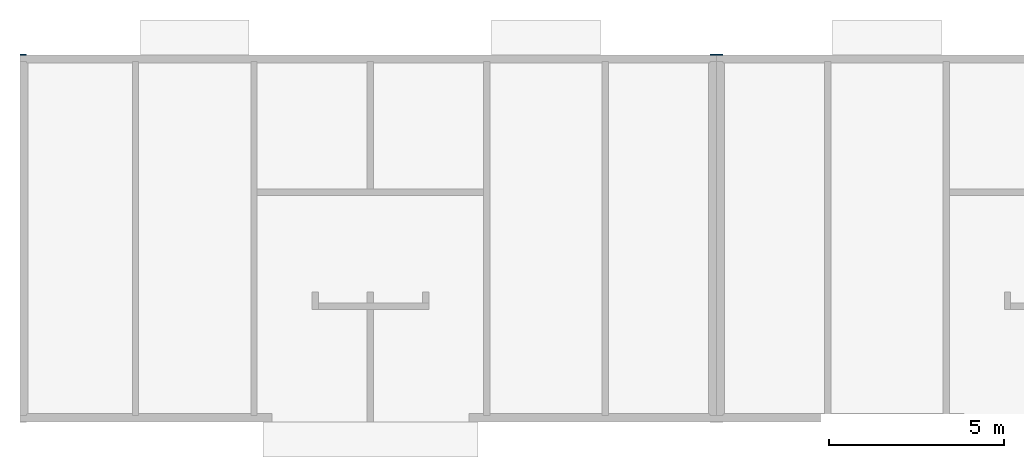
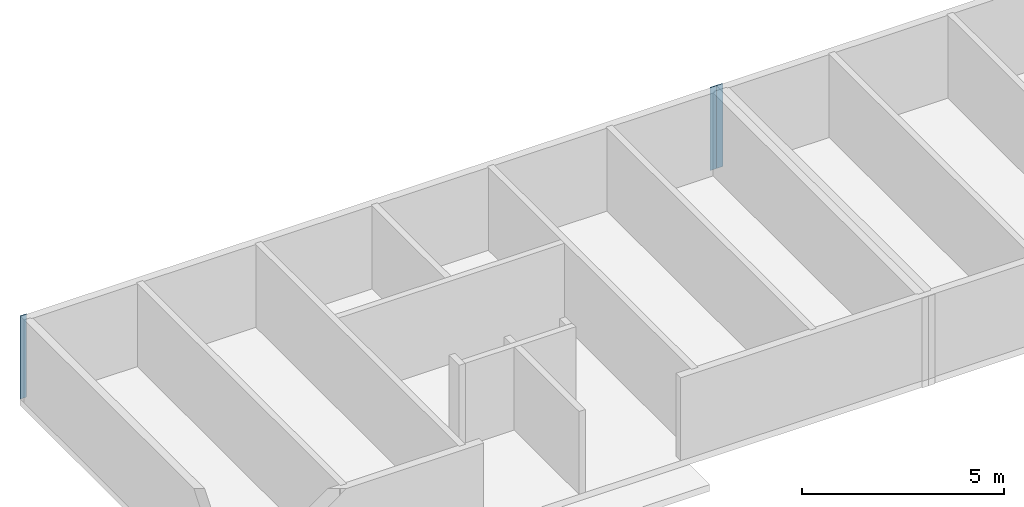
# One storey, part 4 of 10: 3 walls.
"""IFC2X3 building model written with IfcOpenShell, lengths in metres."""

import ifcopenshell
import ifcopenshell.guid

model = None  # the IFC model being written
_history = None  # IfcOwnerHistory: only IFC2X3 demands one
_inside = {}  # id of a spatial element -> (the spatial element, [elements in it])
_under = {}  # id of a project, library or spatial element -> (it, [spatial elements below it])
_declared = {}  # id of a project -> (the project, [libraries it declares])
_typed = {}  # id of a type object -> (the type object, [elements of that type])
_made_of = {}  # id of a material, layer set ... -> (it, [elements and type objects made of it])


def new_model(schema):
    """Start an empty IFC model of exactly this schema.

    Asked for "IFC4X3", IfcOpenShell would pick the latest addendum, in which some entities
    have other attributes; the version numbers below select the first issue.
    IFC2X3 requires an IfcOwnerHistory on every rooted entity: one is made here for all.
    """
    global model, _history
    if schema == "IFC4X3":
        model = ifcopenshell.file(schema_version=(4, 3, 0, 0))
    else:
        model = ifcopenshell.file(schema=schema)
    _inside.clear()
    _under.clear()
    _declared.clear()
    _typed.clear()
    _made_of.clear()
    _history = None
    if model.schema == "IFC2X3":
        org = make("IfcOrganization", Name="unknown")
        user = make(
            "IfcPersonAndOrganization",
            ThePerson=make("IfcPerson", FamilyName="unknown"),
            TheOrganization=org,
        )
        app = make(
            "IfcApplication",
            ApplicationDeveloper=org,
            Version="unknown",
            ApplicationFullName="unknown",
            ApplicationIdentifier="unknown",
        )
        _history = make(
            "IfcOwnerHistory",
            OwningUser=user,
            OwningApplication=app,
            ChangeAction="ADDED",
            CreationDate=0,
        )
    return model


def make(cls, **values):
    """One entity of the class cls with the attributes given. An attribute that is None is left unset."""
    return model.create_entity(
        cls, **{name: value for name, value in values.items() if value is not None}
    )


def rooted(cls, **values):
    """An entity with a GlobalId (a new one), such as an element, a storey or a relation."""
    return make(cls, GlobalId=ifcopenshell.guid.new(), OwnerHistory=_history, **values)


def si_unit(unit_type, name, prefix=None):
    """IfcSIUnit, for example si_unit("LENGTHUNIT", "METRE", prefix="MILLI")."""
    return make("IfcSIUnit", UnitType=unit_type, Prefix=prefix, Name=name)


def assignment(units):
    """IfcUnitAssignment: the units of a project."""
    return None if units is None else make("IfcUnitAssignment", Units=units)


def point(xyz):
    """IfcCartesianPoint."""
    return None if xyz is None else make("IfcCartesianPoint", Coordinates=xyz)


def direction(xyz):
    """IfcDirection."""
    return None if xyz is None else make("IfcDirection", DirectionRatios=xyz)


def frame(location, z_axis=None, x_axis=None):
    """IfcAxis2Placement3D, a coordinate frame: its origin and axes. An axis left out is left unset."""
    return make(
        "IfcAxis2Placement3D",
        Location=point(location),
        Axis=direction(z_axis),
        RefDirection=direction(x_axis),
    )


def frame_2d(location, x_axis=None):
    """IfcAxis2Placement2D, a coordinate frame in the plane: its origin and x axis."""
    return make(
        "IfcAxis2Placement2D", Location=point(location), RefDirection=direction(x_axis)
    )


def origin():
    """The frame at (0, 0, 0) with its axes left unset."""
    return frame((0.0, 0.0, 0.0))


def place(relative_to, where):
    """IfcLocalPlacement: puts the frame where relative to a parent placement (None: the world)."""
    return make(
        "IfcLocalPlacement", PlacementRelTo=relative_to, RelativePlacement=where
    )


def context(
    kind, dimensions, precision=None, world=None, true_north=None, identifier=None
):
    """IfcGeometricRepresentationContext, for example the 3D "Model" context."""
    return make(
        "IfcGeometricRepresentationContext",
        ContextIdentifier=identifier,
        ContextType=kind,
        CoordinateSpaceDimension=dimensions,
        Precision=precision,
        WorldCoordinateSystem=world,
        TrueNorth=true_north,
    )


def project(units=None, contexts=None):
    """IfcProject with its units and contexts."""
    return rooted(
        "IfcProject",
        Name="project",
        RepresentationContexts=contexts,
        UnitsInContext=assignment(units),
    )


def spatial(cls, under=None, at=None, **own):
    """A site, building, storey or space (cls), placed at a placement, below another one or the project."""
    s = rooted(cls, ObjectPlacement=at, **own)
    if under is not None:
        _under.setdefault(under.id(), (under, []))[1].append(s)
    return s


def profile(cls, at=None, kind="AREA", **sizes):
    """A parametric profile (cls). Its sizes go by their IFC names, for example OverallWidth=200.0."""
    return make(cls, ProfileType=kind, Position=at, **sizes)


def rectangle(**sizes):
    """IfcRectangleProfileDef."""
    return profile("IfcRectangleProfileDef", **sizes)


def extrude(swept, where, along, depth):
    """IfcExtrudedAreaSolid: the profile swept, set in the frame where, extruded along a direction by depth."""
    return make(
        "IfcExtrudedAreaSolid",
        SweptArea=swept,
        Position=where,
        ExtrudedDirection=direction(along),
        Depth=depth,
    )


def shape(context_of_items, identifier, shape_type, items):
    """IfcShapeRepresentation: the items that make up one representation, for example the "Body"."""
    return make(
        "IfcShapeRepresentation",
        ContextOfItems=context_of_items,
        RepresentationIdentifier=identifier,
        RepresentationType=shape_type,
        Items=items,
    )


def made_of(thing, what):
    """Note that an element or type object is made of a material, layer set ...; save() writes the relation."""
    if what is not None:
        _made_of.setdefault(what.id(), (what, []))[1].append(thing)
    return thing


def element(
    cls,
    number,
    at=None,
    inside=None,
    cuts=None,
    type_object=None,
    material=None,
    context=None,
    identifier="Body",
    shape_type=None,
    held_by="IfcProductDefinitionShape",
    body=None,
    shapes=None,
    **own,
):
    """One element of the class cls, such as IfcWall. Its Tag is "e" and its number.

    at: its placement. inside: the storey or other place that contains it. cuts: it is an
    opening in that element (IfcRelVoidsElement). A single representation is given by context,
    identifier, shape_type and body (its items); several are given by shapes. held_by: the class
    of the entity that holds the representations. save() writes the other relations.
    """
    e = rooted(cls, Tag="e%d" % number, ObjectPlacement=at, **own)
    if body is not None:
        shapes = [shape(context, identifier, shape_type, body)]
    if shapes is not None:
        e.Representation = make(held_by, Representations=shapes)
    if inside is not None:
        _inside.setdefault(inside.id(), (inside, []))[1].append(e)
    if cuts is not None:
        rooted(
            "IfcRelVoidsElement", RelatingBuildingElement=cuts, RelatedOpeningElement=e
        )
    if type_object is not None:
        _typed.setdefault(type_object.id(), (type_object, []))[1].append(e)
    return made_of(e, material)


def aggregate(whole, parts):
    """IfcRelAggregates: a whole, such as a stair, and the parts it consists of."""
    return rooted("IfcRelAggregates", RelatingObject=whole, RelatedObjects=parts)


def save(model, path):
    """Write the relations noted so far, then the file.

    IfcRelAggregates (storeys below a building ...), IfcRelContainedInSpatialStructure (elements
    in a storey), IfcRelDefinesByType, IfcRelAssociatesMaterial and IfcRelDeclares: one each for
    every whole, place, type object, material and project.
    """
    for whole, parts in _under.values():
        aggregate(whole, parts)
    for where, things in _inside.values():
        rooted(
            "IfcRelContainedInSpatialStructure",
            RelatedElements=things,
            RelatingStructure=where,
        )
    for kind, things in _typed.values():
        rooted("IfcRelDefinesByType", RelatedObjects=things, RelatingType=kind)
    for what, things in _made_of.values():
        rooted("IfcRelAssociatesMaterial", RelatedObjects=things, RelatingMaterial=what)
    for by, libraries in _declared.values():
        rooted("IfcRelDeclares", RelatingContext=by, RelatedDefinitions=libraries)
    model.write(path)


model = new_model("IFC2X3")

# Units and contexts
model_context = context("Model", 3, precision=1e-06, world=origin())
ifc_project = project(units=[si_unit("LENGTHUNIT", "METRE"), si_unit("PLANEANGLEUNIT", "RADIAN")], contexts=[model_context])

# Site, building, storey
site = spatial("IfcSite", under=ifc_project, CompositionType="ELEMENT")
building = spatial("IfcBuilding", under=site, CompositionType="ELEMENT")
storey = spatial("IfcBuildingStorey", under=building, Name="r+1", CompositionType="ELEMENT", Elevation=2.7)

# Walls
placement = place(None, origin())
wall_1_placement = place(placement, frame((-4e-15, 10.49007776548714, 2.7), z_axis=(0.0, 0.0, 1.0), x_axis=(1.0, 0.0, 0.0)))
element("IfcWall", 1, at=wall_1_placement, inside=storey, context=model_context, shape_type="SweptSolid", body=[
    extrude(rectangle(XDim=0.18, YDim=0.019999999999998, at=frame_2d((0.09, 0.009999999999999), x_axis=(1.0, 0.0)), kind="CURVE"), frame((0.0, -0.019999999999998, 0.0), z_axis=(0.0, 0.0, 1.0), x_axis=(1.0, 0.0, 0.0)), (0.0, 0.0, 1.0), 2.5),
])
wall_2_placement = place(placement, frame((19.849999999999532, 10.470077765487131, 2.7), z_axis=(0.0, 0.0, 1.0), x_axis=(-1.0, 0.0, 0.0)))
element("IfcWall", 2, at=wall_2_placement, inside=storey, context=model_context, shape_type="SweptSolid", body=[
    extrude(rectangle(XDim=0.18, YDim=0.020000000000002, at=frame_2d((0.09, 0.010000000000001), x_axis=(1.0, 0.0)), kind="CURVE"), frame((0.0, -0.020000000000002, 0.0), z_axis=(0.0, 0.0, 1.0), x_axis=(1.0, 0.0, 0.0)), (0.0, 0.0, 1.0), 2.5),
])
wall_3_placement = place(placement, frame((19.849999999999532, 10.49007776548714, 2.7), z_axis=(0.0, 0.0, 1.0), x_axis=(1.0, 0.0, 0.0)))
element("IfcWall", 3, at=wall_3_placement, inside=storey, context=model_context, shape_type="SweptSolid", body=[
    extrude(rectangle(XDim=0.18, YDim=0.02, at=frame_2d((0.09, 0.01), x_axis=(1.0, 0.0)), kind="CURVE"), frame((0.0, -0.02, 0.0), z_axis=(0.0, 0.0, 1.0), x_axis=(1.0, 0.0, 0.0)), (0.0, 0.0, 1.0), 2.5),
])

save(model, "model.ifc")
